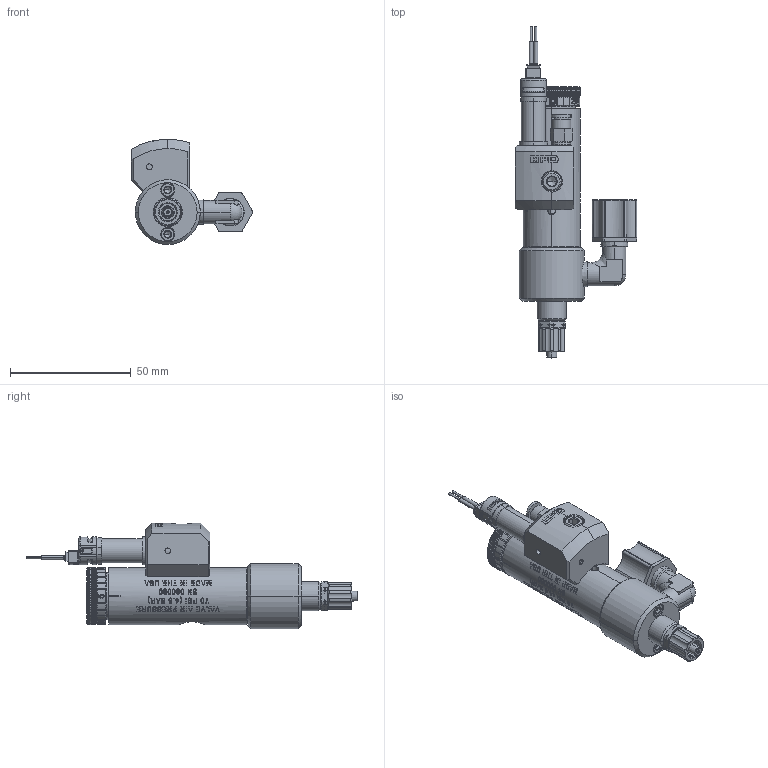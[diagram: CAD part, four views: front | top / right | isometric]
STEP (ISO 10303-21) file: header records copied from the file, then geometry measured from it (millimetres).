
FILE_DESCRIPTION (( 'STEP AP214' ), '1' );
FILE_NAME ('NORDSONEFD-7015584 VALVE NEEDLE 741V SS BP W BACKPACK.STEP', '2018-12-14T02:08:08', ( '' ), ( '' ), 'SwSTEP 2.0', 'SolidWorks 2018', '' );
FILE_SCHEMA (( 'AUTOMOTIVE_DESIGN' ));
Length unit declared in the file: inch
Products named in the file (1): NORDSONEFD-7015584 VALVE NEEDLE 741V SS BP W BACKPACK
Bounding box: 50.32 x 137.69 x 43.61 mm (x, y, z)
Volume: 57525.9 mm3; surface area: 29525.6 mm2
Topology: 2 solids, 2 shells, 3430 faces, 9085 edges, 5792 vertices
Faces by surface type: plane 1380, cylinder 977, bspline 617, torus 218, cone 203, sphere 35
Entity records: 169562 total; most frequent: CARTESIAN_POINT 85410, ORIENTED_EDGE 18084, DIRECTION 14278, EDGE_CURVE 9042, VERTEX_POINT 5788, AXIS2_PLACEMENT_3D 5277, VECTOR 3724, LINE 3724
